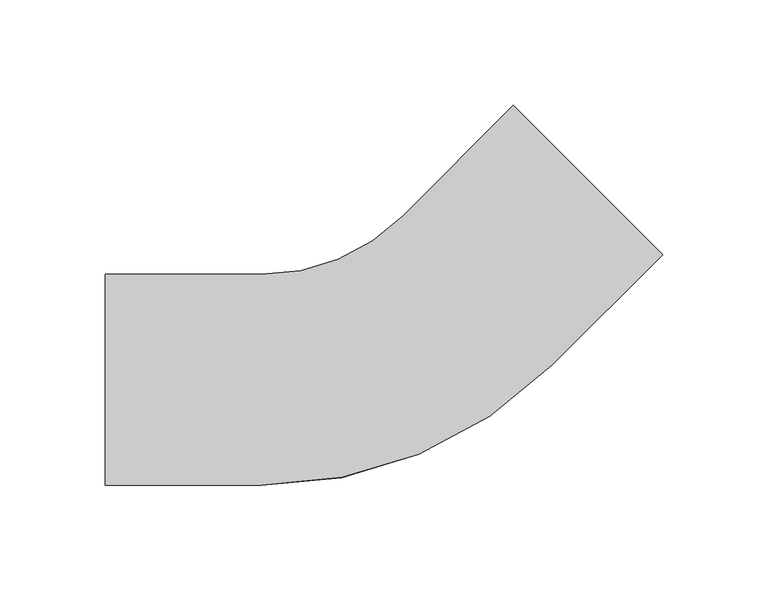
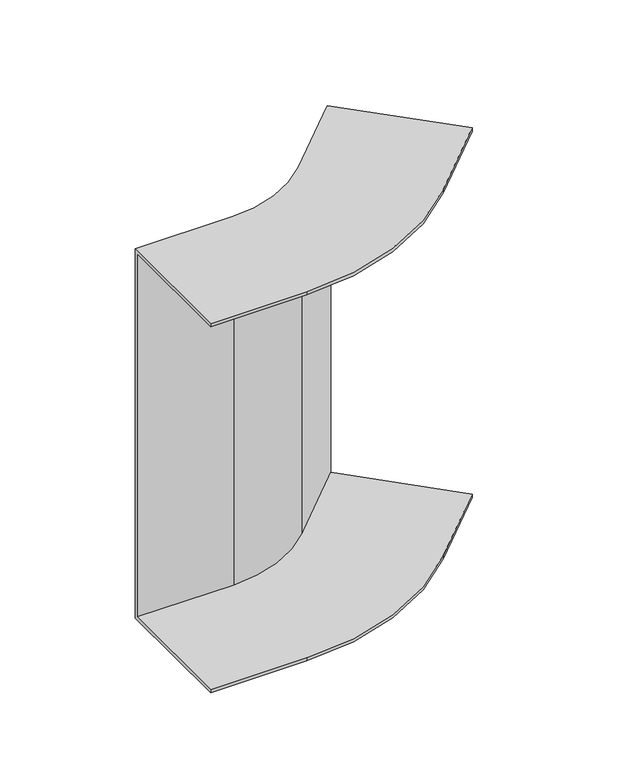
"""IFC4 building model written with IfcOpenShell, lengths in millimetres: cable carrier fitting geometry, BAKS_KK_Vertical bend INTERNAL_LU : LUMNJ_H100."""

import ifcopenshell
import ifcopenshell.guid

model = None  # the IFC model being written
_history = None  # IfcOwnerHistory: only IFC2X3 demands one
_inside = {}  # id of a spatial element -> (the spatial element, [elements in it])
_under = {}  # id of a project, library or spatial element -> (it, [spatial elements below it])
_declared = {}  # id of a project -> (the project, [libraries it declares])
_typed = {}  # id of a type object -> (the type object, [elements of that type])
_made_of = {}  # id of a material, layer set ... -> (it, [elements and type objects made of it])


def new_model(schema):
    """Start an empty IFC model of exactly this schema.

    Asked for "IFC4X3", IfcOpenShell would pick the latest addendum, in which some entities
    have other attributes; the version numbers below select the first issue.
    IFC2X3 requires an IfcOwnerHistory on every rooted entity: one is made here for all.
    """
    global model, _history
    if schema == "IFC4X3":
        model = ifcopenshell.file(schema_version=(4, 3, 0, 0))
    else:
        model = ifcopenshell.file(schema=schema)
    _inside.clear()
    _under.clear()
    _declared.clear()
    _typed.clear()
    _made_of.clear()
    _history = None
    if model.schema == "IFC2X3":
        org = make("IfcOrganization", Name="unknown")
        user = make(
            "IfcPersonAndOrganization",
            ThePerson=make("IfcPerson", FamilyName="unknown"),
            TheOrganization=org,
        )
        app = make(
            "IfcApplication",
            ApplicationDeveloper=org,
            Version="unknown",
            ApplicationFullName="unknown",
            ApplicationIdentifier="unknown",
        )
        _history = make(
            "IfcOwnerHistory",
            OwningUser=user,
            OwningApplication=app,
            ChangeAction="ADDED",
            CreationDate=0,
        )
    return model


def make(cls, **values):
    """One entity of the class cls with the attributes given. An attribute that is None is left unset."""
    return model.create_entity(
        cls, **{name: value for name, value in values.items() if value is not None}
    )


def rooted(cls, **values):
    """An entity with a GlobalId (a new one), such as an element, a storey or a relation."""
    return make(cls, GlobalId=ifcopenshell.guid.new(), OwnerHistory=_history, **values)


def si_unit(unit_type, name, prefix=None):
    """IfcSIUnit, for example si_unit("LENGTHUNIT", "METRE", prefix="MILLI")."""
    return make("IfcSIUnit", UnitType=unit_type, Prefix=prefix, Name=name)


def assignment(units):
    """IfcUnitAssignment: the units of a project."""
    return None if units is None else make("IfcUnitAssignment", Units=units)


def point(xyz):
    """IfcCartesianPoint."""
    return None if xyz is None else make("IfcCartesianPoint", Coordinates=xyz)


def direction(xyz):
    """IfcDirection."""
    return None if xyz is None else make("IfcDirection", DirectionRatios=xyz)


def frame(location, z_axis=None, x_axis=None):
    """IfcAxis2Placement3D, a coordinate frame: its origin and axes. An axis left out is left unset."""
    return make(
        "IfcAxis2Placement3D",
        Location=point(location),
        Axis=direction(z_axis),
        RefDirection=direction(x_axis),
    )


def origin():
    """The frame at (0, 0, 0) with its axes left unset."""
    return frame((0.0, 0.0, 0.0))


def place(relative_to, where):
    """IfcLocalPlacement: puts the frame where relative to a parent placement (None: the world)."""
    return make(
        "IfcLocalPlacement", PlacementRelTo=relative_to, RelativePlacement=where
    )


def context(
    kind, dimensions, precision=None, world=None, true_north=None, identifier=None
):
    """IfcGeometricRepresentationContext, for example the 3D "Model" context."""
    return make(
        "IfcGeometricRepresentationContext",
        ContextIdentifier=identifier,
        ContextType=kind,
        CoordinateSpaceDimension=dimensions,
        Precision=precision,
        WorldCoordinateSystem=world,
        TrueNorth=true_north,
    )


def project(units=None, contexts=None):
    """IfcProject with its units and contexts."""
    return rooted(
        "IfcProject",
        Name="project",
        RepresentationContexts=contexts,
        UnitsInContext=assignment(units),
    )


def spatial(cls, under=None, at=None, **own):
    """A site, building, storey or space (cls), placed at a placement, below another one or the project."""
    s = rooted(cls, ObjectPlacement=at, **own)
    if under is not None:
        _under.setdefault(under.id(), (under, []))[1].append(s)
    return s


def polyline(points):
    """IfcPolyline through the points."""
    return make("IfcPolyline", Points=[point(p) for p in points])


def circle_curve(where, radius):
    """IfcCircle in the frame where."""
    return make("IfcCircle", Position=where, Radius=radius)


def shape(context_of_items, identifier, shape_type, items):
    """IfcShapeRepresentation: the items that make up one representation, for example the "Body"."""
    return make(
        "IfcShapeRepresentation",
        ContextOfItems=context_of_items,
        RepresentationIdentifier=identifier,
        RepresentationType=shape_type,
        Items=items,
    )


def source(mapping_origin, context_of_items, identifier, shape_type, items):
    """IfcRepresentationMap: a shape defined once, which mapped items show again and again."""
    return make(
        "IfcRepresentationMap",
        MappingOrigin=mapping_origin,
        MappedRepresentation=shape(context_of_items, identifier, shape_type, items),
    )


def transform(
    local_origin,
    x_axis=None,
    y_axis=None,
    z_axis=None,
    scale=None,
    scale2=None,
    scale3=None,
    uniform=True,
):
    """IfcCartesianTransformationOperator3D, or its non-uniform kind. x_axis, y_axis, z_axis: its Axis1, 2, 3."""
    if uniform:
        return make(
            "IfcCartesianTransformationOperator3D",
            Axis1=direction(x_axis),
            Axis2=direction(y_axis),
            LocalOrigin=point(local_origin),
            Scale=scale,
            Axis3=direction(z_axis),
        )
    return make(
        "IfcCartesianTransformationOperator3DnonUniform",
        Axis1=direction(x_axis),
        Axis2=direction(y_axis),
        LocalOrigin=point(local_origin),
        Scale=scale,
        Axis3=direction(z_axis),
        Scale2=scale2,
        Scale3=scale3,
    )


def mapped(mapping_source, mapping_target):
    """IfcMappedItem: shows the shape of a source again, moved by a transform."""
    return make(
        "IfcMappedItem", MappingSource=mapping_source, MappingTarget=mapping_target
    )


def made_of(thing, what):
    """Note that an element or type object is made of a material, layer set ...; save() writes the relation."""
    if what is not None:
        _made_of.setdefault(what.id(), (what, []))[1].append(thing)
    return thing


def element(
    cls,
    number,
    at=None,
    inside=None,
    cuts=None,
    type_object=None,
    material=None,
    context=None,
    identifier="Body",
    shape_type=None,
    held_by="IfcProductDefinitionShape",
    body=None,
    shapes=None,
    **own,
):
    """One element of the class cls, such as IfcWall. Its Tag is "e" and its number.

    at: its placement. inside: the storey or other place that contains it. cuts: it is an
    opening in that element (IfcRelVoidsElement). A single representation is given by context,
    identifier, shape_type and body (its items); several are given by shapes. held_by: the class
    of the entity that holds the representations. save() writes the other relations.
    """
    e = rooted(cls, Tag="e%d" % number, ObjectPlacement=at, **own)
    if body is not None:
        shapes = [shape(context, identifier, shape_type, body)]
    if shapes is not None:
        e.Representation = make(held_by, Representations=shapes)
    if inside is not None:
        _inside.setdefault(inside.id(), (inside, []))[1].append(e)
    if cuts is not None:
        rooted(
            "IfcRelVoidsElement", RelatingBuildingElement=cuts, RelatedOpeningElement=e
        )
    if type_object is not None:
        _typed.setdefault(type_object.id(), (type_object, []))[1].append(e)
    return made_of(e, material)


def aggregate(whole, parts):
    """IfcRelAggregates: a whole, such as a stair, and the parts it consists of."""
    return rooted("IfcRelAggregates", RelatingObject=whole, RelatedObjects=parts)


def save(model, path):
    """Write the relations noted so far, then the file.

    IfcRelAggregates (storeys below a building ...), IfcRelContainedInSpatialStructure (elements
    in a storey), IfcRelDefinesByType, IfcRelAssociatesMaterial and IfcRelDeclares: one each for
    every whole, place, type object, material and project.
    """
    for whole, parts in _under.values():
        aggregate(whole, parts)
    for where, things in _inside.values():
        rooted(
            "IfcRelContainedInSpatialStructure",
            RelatedElements=things,
            RelatingStructure=where,
        )
    for kind, things in _typed.values():
        rooted("IfcRelDefinesByType", RelatedObjects=things, RelatingType=kind)
    for what, things in _made_of.values():
        rooted("IfcRelAssociatesMaterial", RelatedObjects=things, RelatingMaterial=what)
    for by, libraries in _declared.values():
        rooted("IfcRelDeclares", RelatingContext=by, RelatedDefinitions=libraries)
    model.write(path)


def plane_surface(at):
    """IfcPlane: the flat surface through the origin of the frame at, square to its z axis."""
    return make("IfcPlane", Position=at)


def cylinder_surface(at, radius):
    """IfcCylindricalSurface: all points at the distance radius from the z axis of the frame at."""
    return make("IfcCylindricalSurface", Position=at, Radius=radius)


def revolved_surface(curve, axis_point, axis_direction):
    """IfcSurfaceOfRevolution: the curve turned about the line through axis_point along axis_direction."""
    return make(
        "IfcSurfaceOfRevolution",
        SweptCurve=make("IfcArbitraryOpenProfileDef", ProfileType="CURVE", Curve=curve),
        AxisPosition=make("IfcAxis1Placement", Location=point(axis_point), Axis=direction(axis_direction)),
    )


def advanced_brep(points, edges, surfaces, faces):
    """IfcAdvancedBrep: a solid bounded by faces that lie on surfaces and meet in shared edges.

    An edge is (start, end): straight between two places in points (the first is 0);
    or (start, end, curve); or (start, end, curve, False) where it runs against its curve.
    A face is (place in surfaces, loops), or (place, loops, False) where it looks against
    its surface's normal. A loop lists edges by number (the first is 1), with a minus sign
    where the edge is run from its end to its start. The first loop is the outer one.
    """
    corners = [point(p) for p in points]
    vertices = [make("IfcVertexPoint", VertexGeometry=c) for c in corners]
    made = []
    for start, end, *more in edges:
        made.append(
            make(
                "IfcEdgeCurve",
                EdgeStart=vertices[start],
                EdgeEnd=vertices[end],
                EdgeGeometry=more[0] if more else make("IfcPolyline", Points=[corners[start], corners[end]]),
                SameSense=more[1] if len(more) > 1 else True,
            )
        )
    hull = []
    for where, loops, *sense in faces:
        bounds = []
        for j, loop in enumerate(loops):
            ring = [make("IfcOrientedEdge", EdgeElement=made[abs(k) - 1], Orientation=k > 0) for k in loop]
            bounds.append(
                make(
                    "IfcFaceOuterBound" if j == 0 else "IfcFaceBound",
                    Bound=make("IfcEdgeLoop", EdgeList=ring),
                    Orientation=True,
                )
            )
        hull.append(make("IfcAdvancedFace", Bounds=bounds, FaceSurface=surfaces[where], SameSense=sense[0] if sense else True))
    return make("IfcAdvancedBrep", Outer=make("IfcClosedShell", CfsFaces=hull))


def cable_carrier_fitting_c0e00dde(model_context):
    return source(origin(), model_context, "Body", "AdvancedBrep", [
        advanced_brep(
        [(-134.0609665, -50.0, 150.0), (-134.0609665, 50.0, 150.0), (-134.0609665, 50.0, -150.0), (-134.0609665, -50.0, -150.0), (-134.0609665, -50.0, -147.46), (-134.0609665, 47.46, -147.46), (-134.0609665, 47.46, 147.46), (-134.0609665, -50.0, 147.46), (130.1507576, 59.4400795, 150.0), (130.1507576, 59.4400795, 147.46), (61.2361307, 128.3547064, 147.46), (61.2361307, 128.3547064, -147.46), (130.1507576, 59.4400795, -147.46), (130.1507576, 59.4400795, -150.0), (59.4400795, 130.1507576, -150.0), (59.4400795, 130.1507576, 150.0), (-60.0609665, -50.0, 150.0), (77.8248558, 7.1141777, 150.0), (7.1141777, 77.8248558, 150.0), (-60.0609665, 50.0, 150.0), (-60.0609665, 50.0, -150.0), (7.1141777, 77.8248558, -150.0), (77.8248558, 7.1141777, -150.0), (-60.0609665, -50.0, -150.0), (-60.0609665, -50.0, -147.46), (77.8248558, 7.1141777, -147.46), (8.9102289, 76.0288046, -147.46), (-60.0609665, 47.46, -147.46), (-60.0609665, 47.46, 147.46), (8.9102289, 76.0288046, 147.46), (77.8248558, 7.1141777, 147.46), (-60.0609665, -50.0, 147.46)],
        [
            (0, 1),
            (1, 2),
            (2, 3),
            (3, 4),
            (4, 5),
            (5, 6),
            (6, 7),
            (7, 0),
            (8, 9),
            (9, 10),
            (10, 11),
            (11, 12),
            (12, 13),
            (13, 14),
            (14, 15),
            (15, 8),
            (0, 16),
            (16, 17, circle_curve(frame((-60.0609665, 145.0, 150.0), z_axis=(0.0, 0.0, 1.0), x_axis=(0.0, -1.0, 0.0)), 195.0)),
            (17, 8),
            (15, 18),
            (18, 19, circle_curve(frame((-60.0609665, 145.0, 150.0), z_axis=(0.0, 0.0, -1.0), x_axis=(0.0, -1.0, 0.0)), 95.0)),
            (19, 1),
            (19, 20),
            (20, 2),
            (20, 21, circle_curve(frame((-60.0609665, 145.0, -150.0), z_axis=(0.0, 0.0, 1.0), x_axis=(0.0, -1.0, 0.0)), 95.0)),
            (21, 14),
            (13, 22),
            (22, 23, circle_curve(frame((-60.0609665, 145.0, -150.0), z_axis=(0.0, 0.0, -1.0), x_axis=(0.0, -1.0, 0.0)), 195.0)),
            (23, 3),
            (23, 24),
            (24, 4),
            (24, 25, circle_curve(frame((-60.0609665, 145.0, -147.46), z_axis=(0.0, 0.0, 1.0), x_axis=(0.0, -1.0, 0.0)), 195.0)),
            (25, 12),
            (11, 26),
            (26, 27, circle_curve(frame((-60.0609665, 145.0, -147.46), z_axis=(0.0, 0.0, -1.0), x_axis=(0.0, -1.0, 0.0)), 97.54)),
            (27, 5),
            (27, 28),
            (28, 6),
            (28, 29, circle_curve(frame((-60.0609665, 145.0, 147.46), z_axis=(0.0, 0.0, 1.0), x_axis=(0.0, -1.0, 0.0)), 97.54)),
            (29, 10),
            (9, 30),
            (30, 31, circle_curve(frame((-60.0609665, 145.0, 147.46), z_axis=(0.0, 0.0, -1.0), x_axis=(0.0, -1.0, 0.0)), 195.0)),
            (31, 7),
            (31, 16),
            (18, 21),
            (22, 25),
            (26, 29),
            (30, 17),
        ],
        [
            plane_surface(frame((-134.0609665, 0.0, 0.0), z_axis=(-1.0, 0.0, 0.0), x_axis=(0.0, 0.0, 1.0))),
            plane_surface(frame((94.7954185, 94.7954185, 0.0), z_axis=(0.7071067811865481, 0.7071067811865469, 0.0), x_axis=(0.0, 0.0, 1.0))),
            plane_surface(frame((-134.0609665, -50.0, 150.0), z_axis=(0.0, 0.0, 1.0), x_axis=(1.0, 0.0, 0.0))),
            plane_surface(frame((-134.0609665, 50.0, 150.0), z_axis=(0.0, 1.0, 0.0), x_axis=(1.0, 0.0, 0.0))),
            plane_surface(frame((-134.0609665, 50.0, -150.0), z_axis=(0.0, 0.0, -1.0), x_axis=(1.0, 0.0, 0.0))),
            plane_surface(frame((-134.0609665, -50.0, -150.0), z_axis=(0.0, -1.0, 0.0), x_axis=(1.0, 0.0, 0.0))),
            plane_surface(frame((-134.0609665, -50.0, -147.46), z_axis=(0.0, 0.0, 1.0), x_axis=(1.0, 0.0, 0.0))),
            plane_surface(frame((-134.0609665, 47.46, -147.46), z_axis=(0.0, -1.0, 0.0), x_axis=(1.0, 0.0, 0.0))),
            plane_surface(frame((-134.0609665, 47.46, 147.46), z_axis=(0.0, 0.0, -1.0), x_axis=(1.0, 0.0, 0.0))),
            plane_surface(frame((-134.0609665, -50.0, 147.46), z_axis=(0.0, -1.0, 0.0), x_axis=(1.0, 0.0, 0.0))),
            revolved_surface(polyline([(-60.0609665, 50.0, 150.0), (-60.0609665, 50.0, -150.0)]), (-60.0609665, 145.0, 0.0), (0.0, 0.0, 1.0)),
            cylinder_surface(frame((-60.0609665, 145.0, 0.0), z_axis=(0.0, 0.0, 1.0), x_axis=(0.0, -1.0, 0.0)), 195.0),
            cylinder_surface(frame((-60.0609665, 145.0, 0.0), z_axis=(0.0, 0.0, 1.0), x_axis=(0.0, -1.0, 0.0)), 97.54),
            plane_surface(frame((7.1141777, 77.8248558, 150.0), z_axis=(-0.7071067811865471, 0.707106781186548, 0.0), x_axis=(0.707106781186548, 0.7071067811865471, 0.0))),
            plane_surface(frame((77.8248558, 7.1141777, -150.0), z_axis=(0.7071067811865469, -0.7071067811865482, 0.0), x_axis=(0.7071067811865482, 0.7071067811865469, 0.0))),
            plane_surface(frame((8.9102289, 76.0288046, -147.46), z_axis=(0.7071067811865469, -0.7071067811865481, 0.0), x_axis=(0.7071067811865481, 0.7071067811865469, 0.0))),
            plane_surface(frame((77.8248558, 7.1141777, 147.46), z_axis=(0.7071067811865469, -0.7071067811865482, 0.0), x_axis=(0.7071067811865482, 0.7071067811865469, 0.0))),
        ],
        [
            (0, [[1, 2, 3, 4, 5, 6, 7, 8]]),
            (1, [[9, 10, 11, 12, 13, 14, 15, 16]]),
            (2, [[-1, 17, 18, 19, -16, 20, 21, 22]]),
            (3, [[-2, -22, 23, 24]]),
            (4, [[-3, -24, 25, 26, -14, 27, 28, 29]]),
            (5, [[-4, -29, 30, 31]]),
            (6, [[-5, -31, 32, 33, -12, 34, 35, 36]]),
            (7, [[-6, -36, 37, 38]]),
            (8, [[-7, -38, 39, 40, -10, 41, 42, 43]]),
            (9, [[-8, -43, 44, -17]]),
            (10, [[-25, -23, -21, 45]]),
            (11, [[-32, -30, -28, 46]]),
            (12, [[-39, -37, -35, 47]]),
            (11, [[-18, -44, -42, 48]]),
            (13, [[-45, -20, -15, -26]]),
            (14, [[-46, -27, -13, -33]]),
            (15, [[-47, -34, -11, -40]]),
            (16, [[-48, -41, -9, -19]]),
        ],
    ),
    ])


if __name__ == "__main__":
    model = new_model("IFC4")
    model_context = context("Model", 3, world=origin())
    ifc_project = project(units=[si_unit("LENGTHUNIT", "METRE", prefix="MILLI")], contexts=[model_context])
    site = spatial("IfcSite", under=ifc_project)
    building = spatial("IfcBuilding", under=site)
    placement = place(None, origin())
    cable_carrier_fitting_shape = cable_carrier_fitting_c0e00dde(model_context)
    element("IfcCableCarrierFitting", 1, ObjectType="BAKS_KK_Vertical bend INTERNAL_LU : LUMNJ_H100", at=placement, inside=building, context=model_context, shape_type="MappedRepresentation", body=[
        mapped(cable_carrier_fitting_shape, transform((0.0, 0.0, 0.0), x_axis=(1.0, 0.0, 0.0), y_axis=(0.0, 1.0, 0.0), z_axis=(0.0, 0.0, 1.0))),
    ])
    save(model, "model.ifc")
